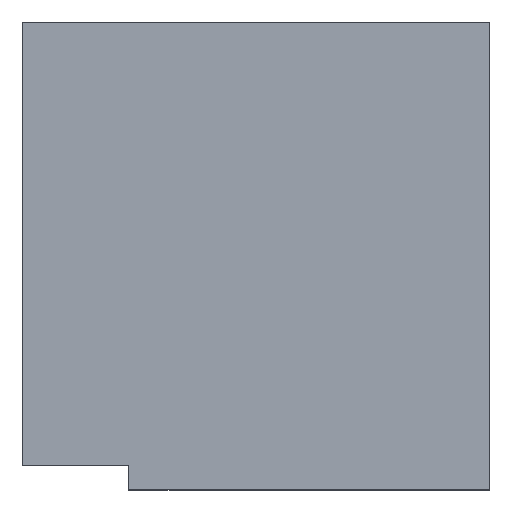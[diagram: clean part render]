
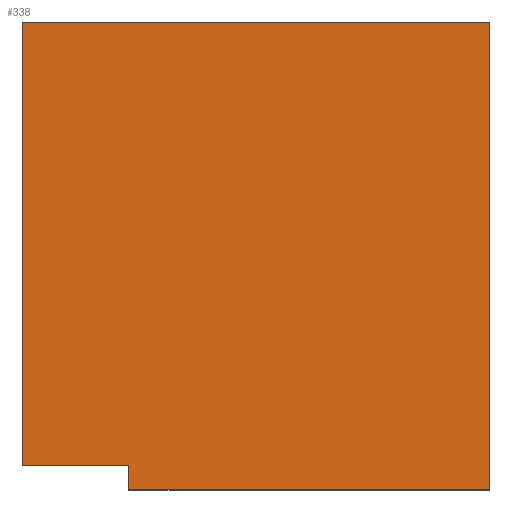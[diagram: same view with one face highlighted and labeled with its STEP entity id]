
A CAD part, top view. The second image highlights one B-rep face of the part: STEP entity #338.
In plain terms, the highlighted planar face has unit normal (0, 0, 1).
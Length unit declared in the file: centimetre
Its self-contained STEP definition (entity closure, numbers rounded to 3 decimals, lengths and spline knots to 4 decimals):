
#7 = DIRECTION ( 'NONE',  ( 0., 1., 0. ) ) ;
#21 = ORIENTED_EDGE ( 'NONE', *, *, #352, .T. ) ;
#44 = DIRECTION ( 'NONE',  ( 0., 0., 1. ) ) ;
#66 = DIRECTION ( 'NONE',  ( -1., 0., 0. ) ) ;
#68 = VECTOR ( 'NONE', #210, 100. ) ;
#76 = EDGE_CURVE ( 'NONE', #431, #192, #164, .T. ) ;
#81 = CARTESIAN_POINT ( 'NONE',  ( 0., 0., 1000. ) ) ;
#88 = VECTOR ( 'NONE', #394, 100. ) ;
#103 = LINE ( 'NONE', #413, #244 ) ;
#118 = ORIENTED_EDGE ( 'NONE', *, *, #169, .T. ) ;
#123 = ORIENTED_EDGE ( 'NONE', *, *, #279, .T. ) ;
#126 = ORIENTED_EDGE ( 'NONE', *, *, #190, .T. ) ;
#130 = LINE ( 'NONE', #315, #382 ) ;
#143 = LINE ( 'NONE', #358, #68 ) ;
#162 = VECTOR ( 'NONE', #435, 100. ) ;
#164 = LINE ( 'NONE', #306, #162 ) ;
#169 = EDGE_CURVE ( 'NONE', #334, #192, #143, .T. ) ;
#182 = LINE ( 'NONE', #421, #88 ) ;
#189 = PLANE ( 'NONE',  #371 ) ;
#190 = EDGE_CURVE ( 'NONE', #403, #266, #103, .T. ) ;
#192 = VERTEX_POINT ( 'NONE', #243 ) ;
#210 = DIRECTION ( 'NONE',  ( 0., -1., 0. ) ) ;
#221 = EDGE_LOOP ( 'NONE', ( #21, #126, #123, #228, #118, #368 ) ) ;
#222 = CARTESIAN_POINT ( 'NONE',  ( 1000., 1000., 1000. ) ) ;
#228 = ORIENTED_EDGE ( 'NONE', *, *, #396, .T. ) ;
#243 = CARTESIAN_POINT ( 'NONE',  ( 0., 51.564, 1000. ) ) ;
#244 = VECTOR ( 'NONE', #292, 100. ) ;
#250 = LINE ( 'NONE', #222, #280 ) ;
#266 = VERTEX_POINT ( 'NONE', #333 ) ;
#274 = CARTESIAN_POINT ( 'NONE',  ( 228.0041, 0., 1000. ) ) ;
#279 = EDGE_CURVE ( 'NONE', #266, #401, #250, .T. ) ;
#280 = VECTOR ( 'NONE', #7, 100. ) ;
#287 = CARTESIAN_POINT ( 'NONE',  ( 0., 1000., 1000. ) ) ;
#292 = DIRECTION ( 'NONE',  ( 1., 0., 0. ) ) ;
#306 = CARTESIAN_POINT ( 'NONE',  ( 0., 51.564, 1000. ) ) ;
#315 = CARTESIAN_POINT ( 'NONE',  ( 0., 1000., 1000. ) ) ;
#333 = CARTESIAN_POINT ( 'NONE',  ( 1000., 0., 1000. ) ) ;
#334 = VERTEX_POINT ( 'NONE', #287 ) ;
#338 = ADVANCED_FACE ( 'NONE', ( #357 ), #189, .T. ) ;
#351 = CARTESIAN_POINT ( 'NONE',  ( 1000., 1000., 1000. ) ) ;
#352 = EDGE_CURVE ( 'NONE', #431, #403, #182, .T. ) ;
#357 = FACE_OUTER_BOUND ( 'NONE', #221, .T. ) ;
#358 = CARTESIAN_POINT ( 'NONE',  ( 0., 1000., 1000. ) ) ;
#368 = ORIENTED_EDGE ( 'NONE', *, *, #76, .F. ) ;
#371 = AXIS2_PLACEMENT_3D ( 'NONE', #81, #44, #424 ) ;
#382 = VECTOR ( 'NONE', #66, 100. ) ;
#394 = DIRECTION ( 'NONE',  ( 0., -1., 0. ) ) ;
#396 = EDGE_CURVE ( 'NONE', #401, #334, #130, .T. ) ;
#401 = VERTEX_POINT ( 'NONE', #351 ) ;
#403 = VERTEX_POINT ( 'NONE', #274 ) ;
#413 = CARTESIAN_POINT ( 'NONE',  ( 0., 0., 1000. ) ) ;
#421 = CARTESIAN_POINT ( 'NONE',  ( 228.0041, 51.564, 1000. ) ) ;
#424 = DIRECTION ( 'NONE',  ( 1., 0., 0. ) ) ;
#431 = VERTEX_POINT ( 'NONE', #436 ) ;
#435 = DIRECTION ( 'NONE',  ( -1., 0., 0. ) ) ;
#436 = CARTESIAN_POINT ( 'NONE',  ( 228.0041, 51.564, 1000. ) ) ;
